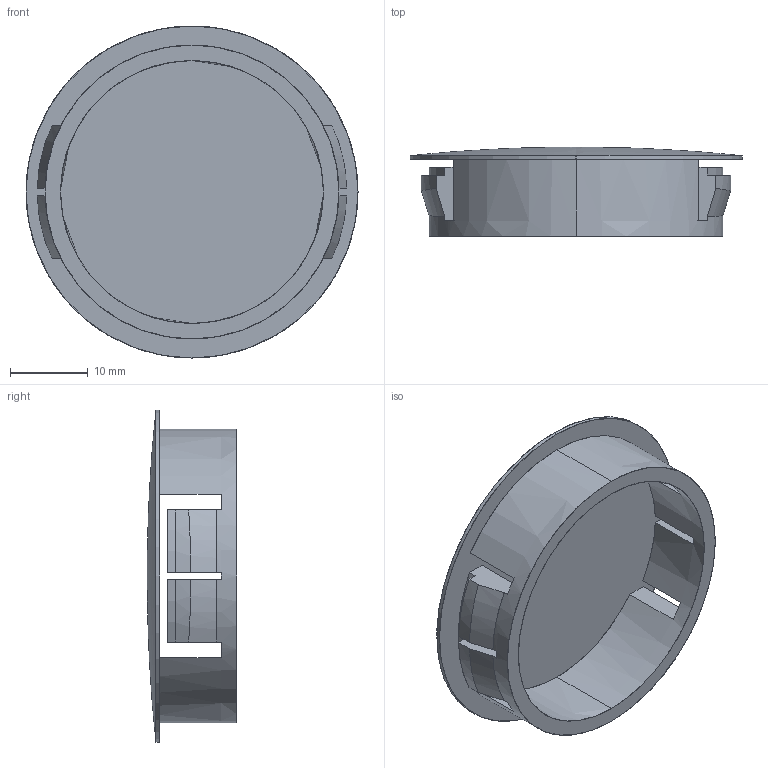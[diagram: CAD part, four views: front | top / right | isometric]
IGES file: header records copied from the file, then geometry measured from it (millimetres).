
Start section: SolidWorks IGES FILE using analytic representation for surfaces
Global section: file name: \\Ls-wvld1d\share\シブタニ\3D設計\ゴム\EBHP-17\EBHP-17.IGS; native system: SolidWorks 2003 by SolidWorks Corporation; preprocessor: Version 5.3; author: user; date: 130803.141923; units: millimetre
Bounding box: 42.7 x 11.5 x 42.7 mm (x, y, z)
Surface area: 5357.2 mm2 (no closed solid volume)
Topology: 0 solids, 0 shells, 48 faces, 592 edges, 590 vertices
Faces by surface type: bspline 30, revolution 18
